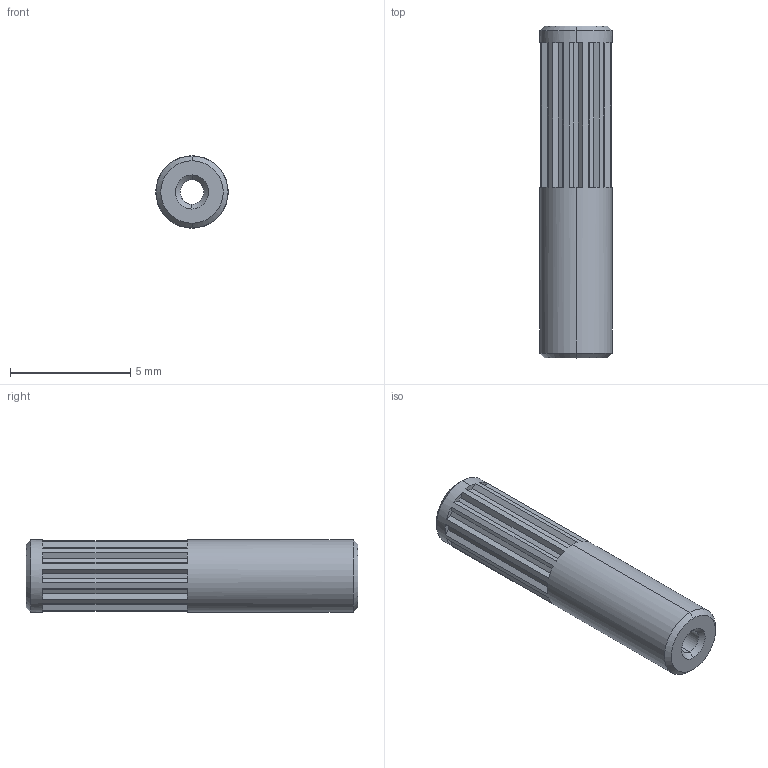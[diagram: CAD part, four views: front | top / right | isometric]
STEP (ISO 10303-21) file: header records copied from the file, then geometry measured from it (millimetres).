
FILE_DESCRIPTION (( 'STEP AP214' ), '1' );
FILE_NAME ('TRL-0041-A.STEP', '2021-06-25T19:12:22', ( '' ), ( '' ), 'SwSTEP 2.0', 'SolidWorks 2016', '' );
FILE_SCHEMA (( 'AUTOMOTIVE_DESIGN' ));
Length unit declared in the file: millimetre
Products named in the file (1): TRL-0041-A
Bounding box: 3 x 13.8 x 3 mm (x, y, z)
Volume: 78.1 mm3; surface area: 200.3 mm2
Topology: 1 solids, 1 shells, 84 faces, 197 edges, 125 vertices
Faces by surface type: plane 64, cone 10, cylinder 6, bspline 4
Entity records: 3081 total; most frequent: CARTESIAN_POINT 1110, DIRECTION 398, ORIENTED_EDGE 394, EDGE_CURVE 197, LINE 140, VECTOR 140, AXIS2_PLACEMENT_3D 129, VERTEX_POINT 125
